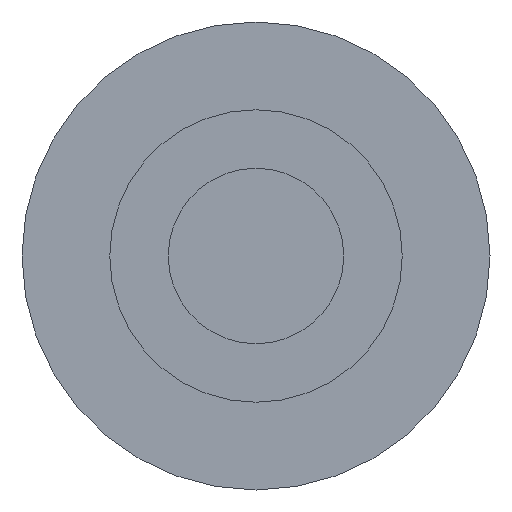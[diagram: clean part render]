
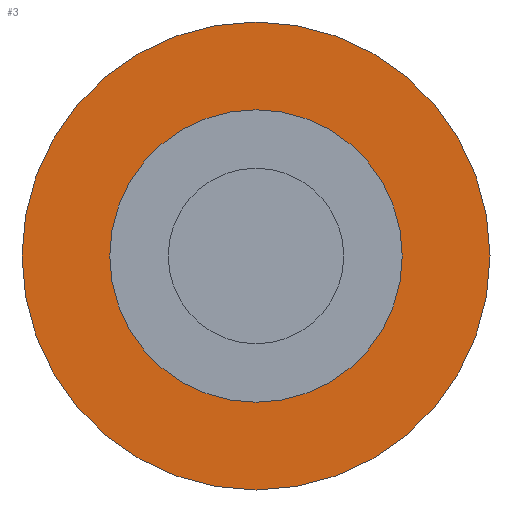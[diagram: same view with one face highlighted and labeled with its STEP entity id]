
A CAD part, front view. The second image highlights one B-rep face of the part: STEP entity #3.
In plain terms, the highlighted planar face has unit normal (0, -1, 0).
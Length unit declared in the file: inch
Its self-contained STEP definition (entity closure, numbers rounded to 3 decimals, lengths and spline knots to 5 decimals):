
#3 = ADVANCED_FACE ( 'NONE', ( #122, #123 ), #194, .F. ) ;
#24 = EDGE_CURVE ( 'NONE', #186, #167, #416, .T. ) ;
#26 = EDGE_CURVE ( 'NONE', #167, #186, #412, .T. ) ;
#31 = EDGE_CURVE ( 'NONE', #182, #185, #393, .T. ) ;
#38 = AXIS2_PLACEMENT_3D ( 'NONE', #205, #204, #230 ) ;
#41 = EDGE_CURVE ( 'NONE', #185, #182, #379, .T. ) ;
#64 = ORIENTED_EDGE ( 'NONE', *, *, #41, .F. ) ;
#89 = ORIENTED_EDGE ( 'NONE', *, *, #26, .F. ) ;
#90 = ORIENTED_EDGE ( 'NONE', *, *, #24, .F. ) ;
#94 = ORIENTED_EDGE ( 'NONE', *, *, #31, .F. ) ;
#101 = EDGE_LOOP ( 'NONE', ( #89, #90 ) ) ;
#108 = EDGE_LOOP ( 'NONE', ( #64, #94 ) ) ;
#122 = FACE_OUTER_BOUND ( 'NONE', #101, .T. ) ;
#123 = FACE_BOUND ( 'NONE', #108, .T. ) ;
#167 = VERTEX_POINT ( 'NONE', #276 ) ;
#182 = VERTEX_POINT ( 'NONE', #320 ) ;
#185 = VERTEX_POINT ( 'NONE', #310 ) ;
#186 = VERTEX_POINT ( 'NONE', #316 ) ;
#194 = PLANE ( 'NONE',  #38 ) ;
#204 = DIRECTION ( 'NONE',  ( 0., 1., 0. ) ) ;
#205 = CARTESIAN_POINT ( 'NONE',  ( -1.10557, -1.19, 0. ) ) ;
#230 = DIRECTION ( 'NONE',  ( 0., 0., 1. ) ) ;
#244 = CARTESIAN_POINT ( 'NONE',  ( 0., -1.19, 0. ) ) ;
#245 = DIRECTION ( 'NONE',  ( 0., 1., 0. ) ) ;
#255 = DIRECTION ( 'NONE',  ( 0., 0., 1. ) ) ;
#259 = DIRECTION ( 'NONE',  ( 0., 1., 0. ) ) ;
#260 = DIRECTION ( 'NONE',  ( 0., 0., 1. ) ) ;
#268 = CARTESIAN_POINT ( 'NONE',  ( 0., -1.19, 0. ) ) ;
#270 = DIRECTION ( 'NONE',  ( 0., 0., 1. ) ) ;
#273 = CARTESIAN_POINT ( 'NONE',  ( 0., -1.19, 0. ) ) ;
#276 = CARTESIAN_POINT ( 'NONE',  ( 0., -1.19, -0.5 ) ) ;
#288 = DIRECTION ( 'NONE',  ( 0., -1., 0. ) ) ;
#294 = DIRECTION ( 'NONE',  ( 0., -1., 0. ) ) ;
#304 = CARTESIAN_POINT ( 'NONE',  ( 0., -1.19, 0. ) ) ;
#305 = DIRECTION ( 'NONE',  ( 0., 0., 1. ) ) ;
#310 = CARTESIAN_POINT ( 'NONE',  ( 0., -1.19, -0.3125 ) ) ;
#316 = CARTESIAN_POINT ( 'NONE',  ( 0., -1.19, 0.5 ) ) ;
#320 = CARTESIAN_POINT ( 'NONE',  ( 0., -1.19, 0.3125 ) ) ;
#379 = CIRCLE ( 'NONE', #439, 0.3125 ) ;
#393 = CIRCLE ( 'NONE', #436, 0.3125 ) ;
#412 = CIRCLE ( 'NONE', #434, 0.5 ) ;
#416 = CIRCLE ( 'NONE', #431, 0.5 ) ;
#431 = AXIS2_PLACEMENT_3D ( 'NONE', #244, #245, #255 ) ;
#434 = AXIS2_PLACEMENT_3D ( 'NONE', #268, #259, #260 ) ;
#436 = AXIS2_PLACEMENT_3D ( 'NONE', #304, #288, #270 ) ;
#439 = AXIS2_PLACEMENT_3D ( 'NONE', #273, #294, #305 ) ;
